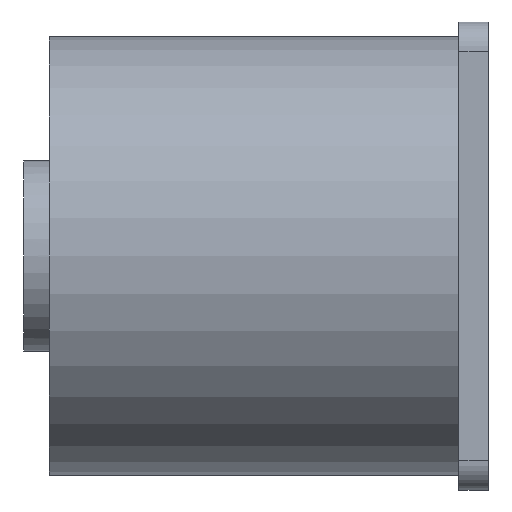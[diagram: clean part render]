
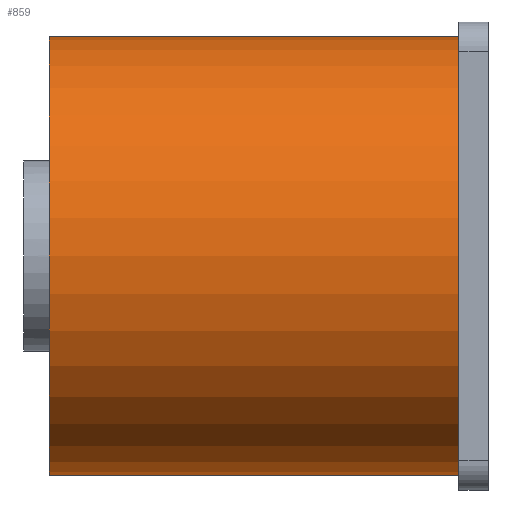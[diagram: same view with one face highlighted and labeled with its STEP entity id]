
A CAD part, front view. The second image highlights one B-rep face of the part: STEP entity #859.
In plain terms, the highlighted cylindrical face has radius 30 mm (diameter 60 mm), a full revolution.
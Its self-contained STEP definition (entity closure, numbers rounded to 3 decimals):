
#859=ADVANCED_FACE('',(#994,#995),#938,.T.);
#938=CYLINDRICAL_SURFACE('',#3281,30.);
#994=FACE_BOUND('',#1181,.T.);
#995=FACE_BOUND('',#1182,.T.);
#1181=EDGE_LOOP('',(#1967));
#1182=EDGE_LOOP('',(#1968));
#1967=ORIENTED_EDGE('',*,*,#2731,.T.);
#1968=ORIENTED_EDGE('',*,*,#2753,.F.);
#2325=VERTEX_POINT('',#5356);
#2339=VERTEX_POINT('',#5406);
#2731=EDGE_CURVE('',#2325,#2325,#2889,.T.);
#2753=EDGE_CURVE('',#2339,#2339,#2899,.T.);
#2889=CIRCLE('',#3254,30.);
#2899=CIRCLE('',#3278,30.);
#3254=AXIS2_PLACEMENT_3D('',#5355,#4144,#4145);
#3278=AXIS2_PLACEMENT_3D('',#5405,#4204,#4205);
#3281=AXIS2_PLACEMENT_3D('',#5410,#4210,#4211);
#4144=DIRECTION('',(-1.,0.,0.));
#4145=DIRECTION('',(0.,0.,-1.));
#4204=DIRECTION('',(-1.,0.,0.));
#4205=DIRECTION('',(0.,0.,1.));
#4210=DIRECTION('',(-1.,0.,0.));
#4211=DIRECTION('',(0.,0.,1.));
#5355=CARTESIAN_POINT('',(59.5,0.,0.));
#5356=CARTESIAN_POINT('',(59.5,0.,-30.));
#5405=CARTESIAN_POINT('',(3.5,0.,0.));
#5406=CARTESIAN_POINT('',(3.5,0.,30.));
#5410=CARTESIAN_POINT('',(0.18,0.,0.));
